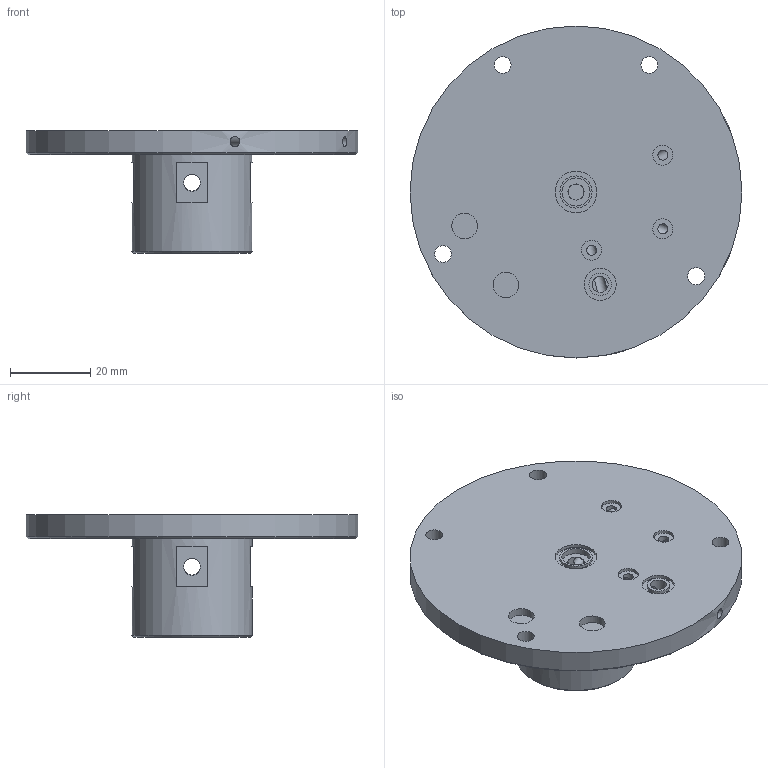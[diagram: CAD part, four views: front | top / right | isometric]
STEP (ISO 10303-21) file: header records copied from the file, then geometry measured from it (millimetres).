
FILE_DESCRIPTION(('STEP AP203'),'1');
FILE_NAME(').stp','2024-01-10T04:30:23',(' '),(' '),'Spatial InterOp 3D',' ',' ');
FILE_SCHEMA(('CONFIG_CONTROL_DESIGN'));
Length unit declared in the file: millimetre
Products named in the file (1): 1
Bounding box: 82.6 x 82.6 x 30.6 mm (x, y, z)
Volume: 46151.6 mm3; surface area: 17112.3 mm2
Topology: 1 solids, 1 shells, 92 faces, 216 edges, 141 vertices
Faces by surface type: cylinder 46, plane 43, cone 3
Full cylindrical faces by diameter (mm): 2.5 x6, 3.3 x4, 4 x3, 4.2 x8, 5 x3, 5.6 x1, 6.4 x2, 7 x1, 7.6 x4, 8 x2, 10.4 x1, 12 x1, 30 x1, 82.6 x1
Entity records: 2564 total; most frequent: CARTESIAN_POINT 637, DIRECTION 416, ORIENTED_EDGE 288, AXIS2_PLACEMENT_3D 196, EDGE_LOOP 182, EDGE_CURVE 144, FACE_OUTER_BOUND 130, VERTEX_POINT 117
